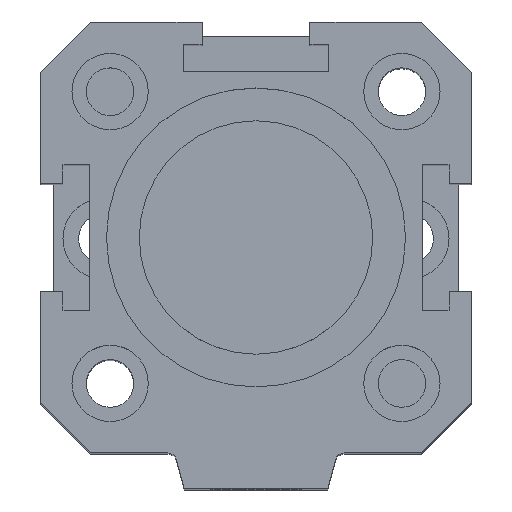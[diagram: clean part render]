
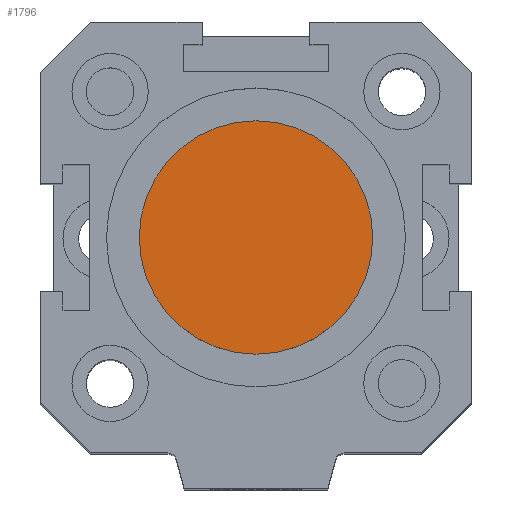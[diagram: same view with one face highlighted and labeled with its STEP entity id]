
A CAD part, top view. The second image highlights one B-rep face of the part: STEP entity #1796.
In plain terms, the highlighted planar face has unit normal (0, 0, 1).
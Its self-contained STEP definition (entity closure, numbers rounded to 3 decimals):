
#373=PLANE('',#1961);
#550=FACE_OUTER_BOUND('',#705,.T.);
#705=EDGE_LOOP('',(#1437));
#814=CIRCLE('',#1881,13.);
#890=VERTEX_POINT('',#2609);
#1060=EDGE_CURVE('',#890,#890,#814,.T.);
#1437=ORIENTED_EDGE('',*,*,#1060,.T.);
#1796=ADVANCED_FACE('',(#550),#373,.T.);
#1881=AXIS2_PLACEMENT_3D('',#2610,#2083,#2084);
#1961=AXIS2_PLACEMENT_3D('',#2876,#2315,#2316);
#2083=DIRECTION('center_axis',(0.,0.,1.));
#2084=DIRECTION('ref_axis',(-1.,0.,0.));
#2315=DIRECTION('center_axis',(0.,0.,1.));
#2316=DIRECTION('ref_axis',(1.,0.,0.));
#2609=CARTESIAN_POINT('',(13.,0.,36.));
#2610=CARTESIAN_POINT('Origin',(0.,0.,36.));
#2876=CARTESIAN_POINT('Origin',(0.,0.555,
36.));
